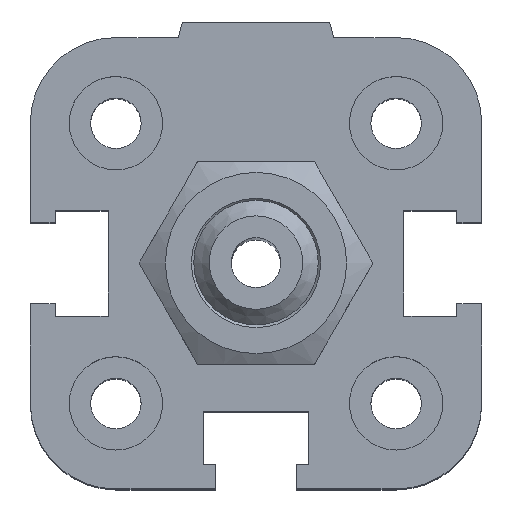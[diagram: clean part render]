
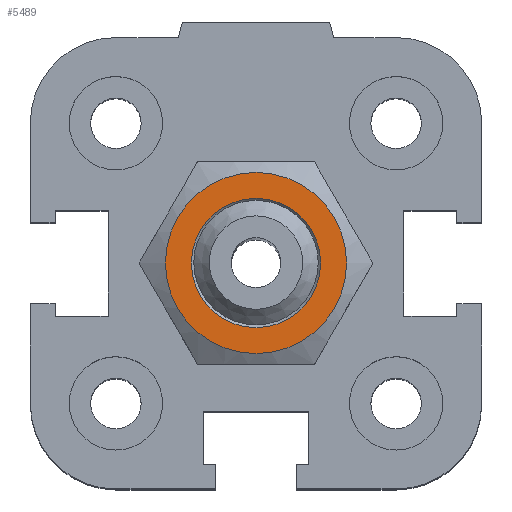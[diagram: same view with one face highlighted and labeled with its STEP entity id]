
A CAD part, top view. The second image highlights one B-rep face of the part: STEP entity #5489.
In plain terms, the highlighted planar face has unit normal (0, 0, 1).
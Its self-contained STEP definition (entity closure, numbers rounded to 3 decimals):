
#5310=CARTESIAN_POINT('',(2.909,5.038,5.0));
#5311=VERTEX_POINT('',#5310);
#5312=CARTESIAN_POINT('',(0.0,0.0,5.0));
#5313=DIRECTION('',(0.,0.,1.0));
#5314=DIRECTION('',(0.5,0.866,0.));
#5315=AXIS2_PLACEMENT_3D('',#5312,#5313,#5314);
#5316=CIRCLE('',#5315,5.818);
#5317=EDGE_CURVE('',#5311,#5311,#5316,.T.);
#5393=CARTESIAN_POINT('',(4.15,0.0,5.0));
#5394=VERTEX_POINT('',#5393);
#5395=CARTESIAN_POINT('',(0.0,0.0,5.0));
#5396=DIRECTION('',(0.0,0.0,-1.0));
#5397=DIRECTION('',(1.0,0.0,0.0));
#5398=AXIS2_PLACEMENT_3D('',#5395,#5396,#5397);
#5399=CIRCLE('',#5398,4.15);
#5400=EDGE_CURVE('',#5394,#5394,#5399,.T.);
#5478=CARTESIAN_POINT('',(0.,0.,5.0));
#5479=DIRECTION('',(0.0,0.0,1.0));
#5480=DIRECTION('',(1.0,0.0,0.0));
#5481=AXIS2_PLACEMENT_3D('',#5478,#5479,#5480);
#5482=PLANE('',#5481);
#5483=ORIENTED_EDGE('',*,*,#5317,.T.);
#5484=EDGE_LOOP('',(#5483));
#5485=FACE_OUTER_BOUND('',#5484,.T.);
#5486=ORIENTED_EDGE('',*,*,#5400,.T.);
#5487=EDGE_LOOP('',(#5486));
#5488=FACE_BOUND('',#5487,.T.);
#5489=ADVANCED_FACE('',(#5485,#5488),#5482,.T.);
